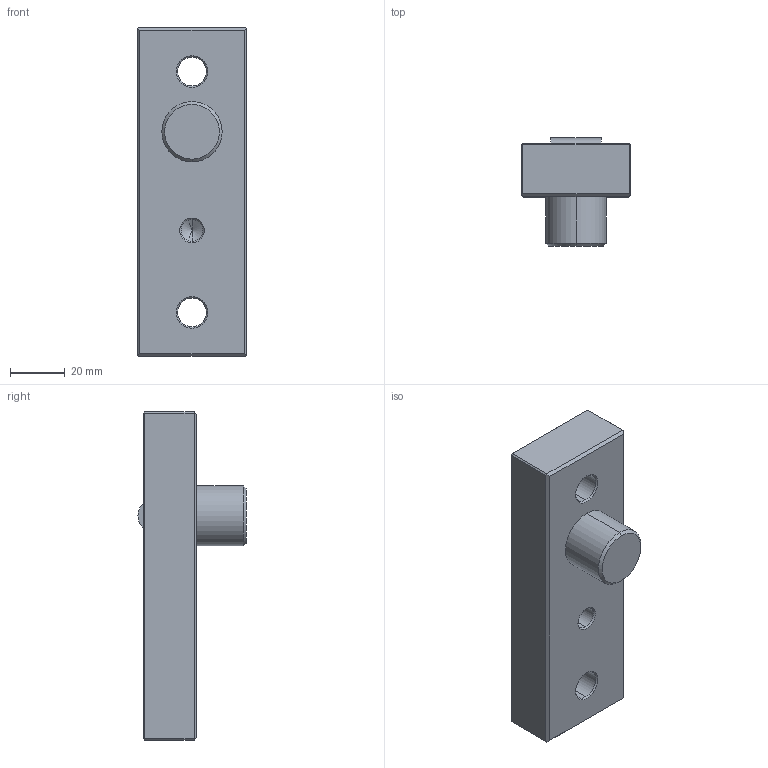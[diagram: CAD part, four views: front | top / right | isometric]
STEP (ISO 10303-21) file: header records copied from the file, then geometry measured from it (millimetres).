
FILE_DESCRIPTION (( 'STEP AP203' ), '1' );
FILE_NAME ('PRI40120.STEP', '2010-11-03T09:51:12', ( ' ' ), ( ' ' ), 'SwSTEP 2.0', 'SolidWorks 2005204', '' );
FILE_SCHEMA (( 'CONFIG_CONTROL_DESIGN' ));
Length unit declared in the file: millimetre
Products named in the file (1): PRI40120
Bounding box: 40 x 39.5 x 120 mm (x, y, z)
Volume: 93285.6 mm3; surface area: 18481 mm2
Topology: 1 solids, 1 shells, 54 faces, 118 edges, 69 vertices
Faces by surface type: plane 27, cone 14, cylinder 13
Entity records: 1523 total; most frequent: DIRECTION 264, CARTESIAN_POINT 240, ORIENTED_EDGE 232, EDGE_CURVE 116, AXIS2_PLACEMENT_3D 93, VECTOR 78, LINE 78, VERTEX_POINT 69
